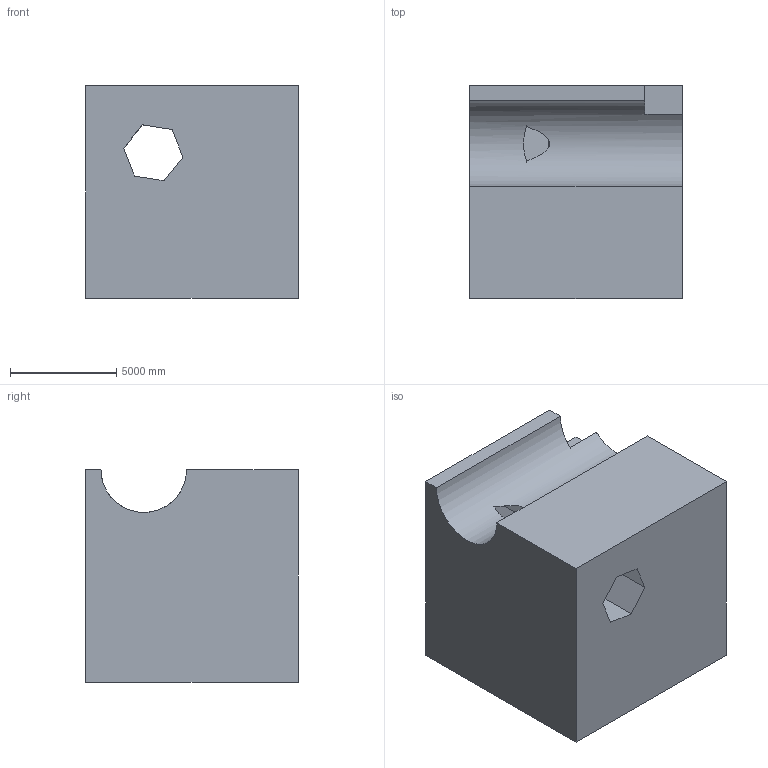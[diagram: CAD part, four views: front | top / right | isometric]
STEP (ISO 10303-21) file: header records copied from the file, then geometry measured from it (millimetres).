
FILE_DESCRIPTION (( 'STEP AP203' ), '1' );
FILE_NAME ('226.STEP', '2022-07-28T13:57:58', ( 'user' ), ( '' ), 'SwSTEP 2.0', 'SolidWorks 2021', '' );
FILE_SCHEMA (( 'CONFIG_CONTROL_DESIGN' ));
Length unit declared in the file: centimetre
Products named in the file (1): 226
Bounding box: 10000 x 10000 x 10000 mm (x, y, z)
Volume: 880312376468.7 mm3; surface area: 677215686.2 mm2
Topology: 1 solids, 1 shells, 17 faces, 48 edges, 32 vertices
Faces by surface type: plane 16, cylinder 1
Entity records: 630 total; most frequent: CARTESIAN_POINT 104, ORIENTED_EDGE 96, DIRECTION 85, EDGE_CURVE 48, LINE 43, VECTOR 43, VERTEX_POINT 32, AXIS2_PLACEMENT_3D 21
